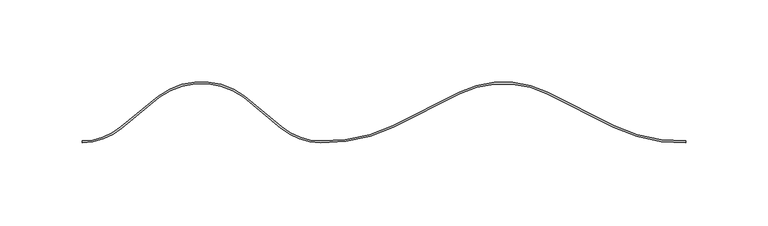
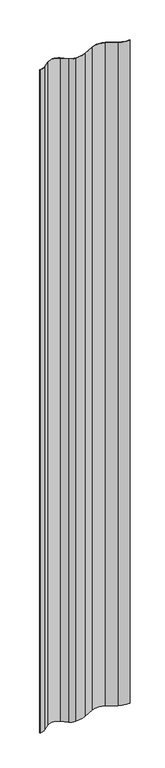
"""IFC4 building model written with IfcOpenShell, lengths in millimetres: plate geometry, Ritmica Vertical 368 : Ritmica Vertical 368."""

from ifc_helpers import new_model, si_unit, point, frame_2d, origin, origin_with_axes, place, context, project, spatial, polyline, circle_curve, trimmed, segment, composite_curve, outline, extrude, source, transform, mapped, element, save


def plate_9f5fbec9(model_context):
    return source(origin(), model_context, "Body", "SweptSolid", [
        extrude(outline(composite_curve([segment(trimmed(circle_curve(frame_2d((180.6365168, 94.2351399)), 93.293376), [point((140.1845002, 10.1679741))], [point((183.95, 1.0006246))], True, "CARTESIAN"), True, "CONTINUOUS"), segment(polyline([(183.95, 1.0006246), (183.95, 0.0)]), True, "CONTINUOUS"), segment(trimmed(circle_curve(frame_2d((180.6365168, 94.2351399)), 94.293376), [point((183.95, 0.0))], [point((139.7430218, 9.2706601))], False, "CARTESIAN"), True, "CONTINUOUS"), segment(polyline([(139.7430218, 9.2706601), (99.197877, 29.6587023)]), True, "CONTINUOUS"), segment(trimmed(circle_curve(frame_2d((72.6922493, -23.0523184)), 59.0), [point((99.197877, 29.6587023))], [point((46.1924014, 29.6616082))], True, "CARTESIAN"), True, "CONTINUOUS"), segment(polyline([(46.1924014, 29.6616082), (5.6450213, 9.2780118)]), True, "CONTINUOUS"), segment(trimmed(circle_curve(frame_2d((-35.2391573, 94.2469749)), 94.293376), [point((5.6450213, 9.2780118))], [point((-38.5629741, 0.012199))], False, "CARTESIAN"), True, "CONTINUOUS"), segment(trimmed(circle_curve(frame_2d((-38.5431169, 38.1436141)), 38.1314203), [point((-38.5629741, 0.012199))], [point((-62.9520893, 8.8484391))], False, "CARTESIAN"), True, "CONTINUOUS"), segment(polyline([(-62.9520893, 8.8484391), (-85.3617355, 27.5203342)]), True, "CONTINUOUS"), segment(trimmed(circle_curve(frame_2d((-111.1726332, -7.0471606)), 43.1406321), [point((-85.3617355, 27.5203342))], [point((-136.9797406, 27.5231641))], True, "CARTESIAN"), True, "CONTINUOUS"), segment(polyline([(-136.9797406, 27.5231641), (-159.6937483, 8.8536327)]), True, "CONTINUOUS"), segment(trimmed(circle_curve(frame_2d((-184.0995084, 38.151484)), 38.1314203), [point((-159.6937483, 8.8536327))], [point((-183.9934113, 0.0202113))], False, "CARTESIAN"), True, "CONTINUOUS"), segment(polyline([(-183.9934113, 0.0202113), (-183.9937205, 1.0202144)]), True, "CONTINUOUS"), segment(trimmed(circle_curve(frame_2d((-184.0995084, 38.151484)), 37.1314203), [point((-183.9937205, 1.0202144))], [point((-160.3337916, 9.6219716))], True, "CARTESIAN"), True, "CONTINUOUS"), segment(polyline([(-160.3337916, 9.6219716), (-137.5994238, 28.3084633)]), True, "CONTINUOUS"), segment(trimmed(circle_curve(frame_2d((-111.1726332, -7.0471606)), 44.1406321), [point((-137.5994238, 28.3084633))], [point((-84.7419662, 28.3055655))], False, "CARTESIAN"), True, "CONTINUOUS"), segment(polyline([(-84.7419662, 28.3055655), (-62.3119617, 9.6167077)]), True, "CONTINUOUS"), segment(trimmed(circle_curve(frame_2d((-38.5431169, 38.1436141)), 37.1314203), [point((-62.3119617, 9.6167077))], [point((-38.5451525, 1.0121939))], True, "CARTESIAN"), True, "CONTINUOUS"), segment(trimmed(circle_curve(frame_2d((-35.2391573, 94.2469749)), 93.293376), [point((-38.5451525, 1.0121939))], [point((5.2036413, 10.1753742))], True, "CARTESIAN"), True, "CONTINUOUS"), segment(polyline([(5.2036413, 10.1753742), (45.7432514, 30.5550646)]), True, "CONTINUOUS"), segment(trimmed(circle_curve(frame_2d((72.6922493, -23.0523184)), 60.0), [point((45.7432514, 30.5550646))], [point((99.6471249, 30.5521094))], False, "CARTESIAN"), True, "CONTINUOUS"), segment(polyline([(99.6471249, 30.5521094), (140.1845002, 10.1679741)]), True, "CONTINUOUS")], self_intersect=False)), origin_with_axes(), (0.0, 0.0, 1.0), 2859.2009216),
    ])


if __name__ == "__main__":
    model = new_model("IFC4")
    model_context = context("Model", 3, world=origin())
    ifc_project = project(units=[si_unit("LENGTHUNIT", "METRE", prefix="MILLI")], contexts=[model_context])
    site = spatial("IfcSite", under=ifc_project)
    building = spatial("IfcBuilding", under=site)
    placement = place(None, origin())
    plate_shape = plate_9f5fbec9(model_context)
    element("IfcPlate", 1, ObjectType="Ritmica Vertical 368 : Ritmica Vertical 368", at=placement, inside=building, context=model_context, shape_type="MappedRepresentation", body=[
        mapped(plate_shape, transform((0.0, 0.0, 0.0), x_axis=(1.0, 0.0, 0.0), y_axis=(0.0, 1.0, 0.0), z_axis=(0.0, 0.0, 1.0))),
    ])
    save(model, "model.ifc")
